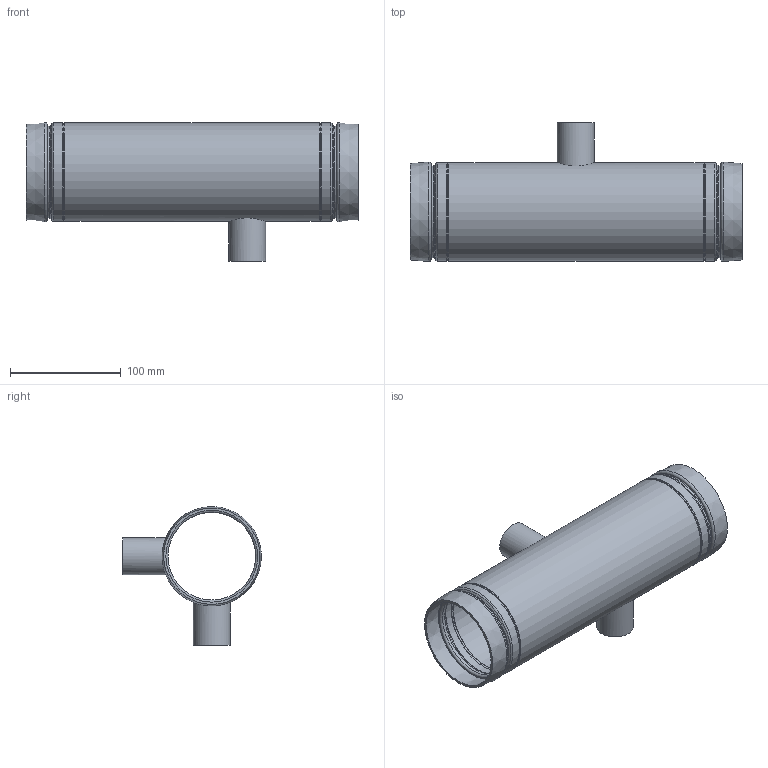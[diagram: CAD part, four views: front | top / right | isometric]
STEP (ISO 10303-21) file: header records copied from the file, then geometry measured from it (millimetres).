
FILE_DESCRIPTION(/* description */ ('VIC STRENGTHIN NIPPLE No E494I','CAx-IF Rec.Pracs.---Representation and Presentation of Product Manufacturing Information (PMI)---4.0---2014-10-13'),/* implementation_level */ '2;1');
FILE_NAME(/* name */ 'C:\ST100\STEP\Victaulic_SS-StrengThin 100_Nipple Instrumentation_No E494I (ST1)\Victaulic_SS-StrengThin 100_Nipple Instrumentation_No E494I (ST1)_3 (80).stp',/* time_stamp */ '2021-06-17T18:16:23+06:00',/* author */ ('kkamble'),/* organization */ ('Victaulic'),/* preprocessor_version */ 'ST-DEVELOPER v17.2',/* originating_system */ 'Autodesk Inventor 2019',/* authorisation */ '');
FILE_SCHEMA (('AP242_MANAGED_MODEL_BASED_3D_ENGINEERING_MIM_LF { 1 0 10303 442 1 1 4 }'));
Length unit declared in the file: inch
Products named in the file (1): E494I-03.0
Bounding box: 299.72 x 125.35 x 125.35 mm (x, y, z)
Volume: 201300.9 mm3; surface area: 179997.5 mm2
Topology: 1 solids, 1 shells, 60 faces, 196 edges, 146 vertices
Faces by surface type: torus 26, cylinder 16, plane 10, cone 8
Full cylindrical faces by diameter (mm): 21.336 x2, 26.67 x2, 33.401 x2, 79.121 x2, 83.185 x2, 84.836 x3, 88.9 x3
Entity records: 2720 total; most frequent: CARTESIAN_POINT 620, DIRECTION 500, ORIENTED_EDGE 392, AXIS2_PLACEMENT_3D 238, EDGE_CURVE 196, CIRCLE 164, VERTEX_POINT 146, EDGE_LOOP 74
